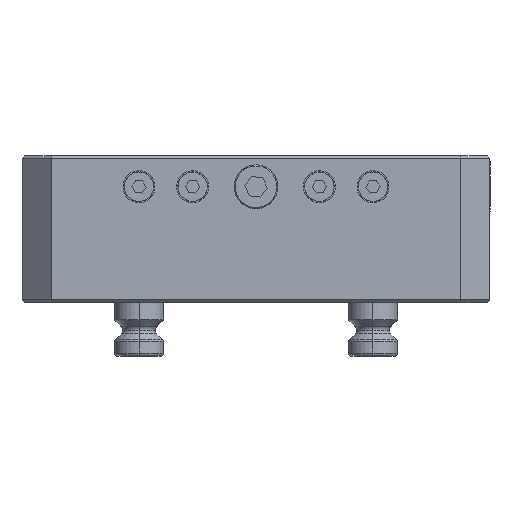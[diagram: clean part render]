
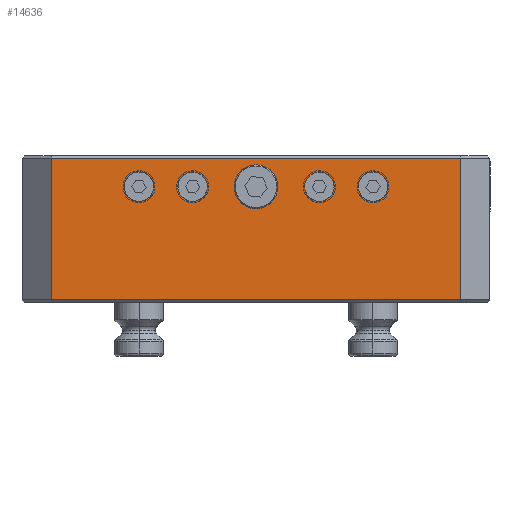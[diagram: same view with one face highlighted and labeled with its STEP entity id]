
A CAD part, top view. The second image highlights one B-rep face of the part: STEP entity #14636.
In plain terms, the highlighted planar face has unit normal (0, 0, 1).
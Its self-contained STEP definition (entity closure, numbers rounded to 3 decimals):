
#27 = EDGE_LOOP ( 'NONE', ( #8958, #22103 ) ) ;
#261 = EDGE_CURVE ( 'NONE', #5626, #20693, #9209, .T. ) ;
#551 = CARTESIAN_POINT ( 'NONE',  ( 20., 47.3, 78. ) ) ;
#627 = ORIENTED_EDGE ( 'NONE', *, *, #22127, .F. ) ;
#898 = VERTEX_POINT ( 'NONE', #22191 ) ;
#1158 = AXIS2_PLACEMENT_3D ( 'NONE', #12833, #2918, #3052 ) ;
#1362 = CARTESIAN_POINT ( 'NONE',  ( -20., 47.3, 78. ) ) ;
#1471 = CARTESIAN_POINT ( 'NONE',  ( 84., 1., 78. ) ) ;
#1622 = CARTESIAN_POINT ( 'NONE',  ( -9., 47.3, 78. ) ) ;
#1945 = VERTEX_POINT ( 'NONE', #24639 ) ;
#1988 = EDGE_CURVE ( 'NONE', #12956, #3048, #19965, .T. ) ;
#2331 = AXIS2_PLACEMENT_3D ( 'NONE', #22192, #21931, #10559 ) ;
#2334 = DIRECTION ( 'NONE',  ( 0., 0., 1. ) ) ;
#2514 = CARTESIAN_POINT ( 'NONE',  ( -84., 59., 78. ) ) ;
#2629 = VERTEX_POINT ( 'NONE', #551 ) ;
#2918 = DIRECTION ( 'NONE',  ( 0., 0., 1. ) ) ;
#2944 = ORIENTED_EDGE ( 'NONE', *, *, #17284, .F. ) ;
#3048 = VERTEX_POINT ( 'NONE', #1622 ) ;
#3052 = DIRECTION ( 'NONE',  ( 1., 0., 0. ) ) ;
#3341 = EDGE_CURVE ( 'NONE', #19946, #14505, #4541, .T. ) ;
#3673 = DIRECTION ( 'NONE',  ( 0., 0., 1. ) ) ;
#3901 = ORIENTED_EDGE ( 'NONE', *, *, #261, .F. ) ;
#4202 = CARTESIAN_POINT ( 'NONE',  ( 54., 47.3, 78. ) ) ;
#4333 = CIRCLE ( 'NONE', #7668, 6. ) ;
#4450 = CARTESIAN_POINT ( 'NONE',  ( 26., 47.3, 78. ) ) ;
#4541 = CIRCLE ( 'NONE', #6596, 6. ) ;
#4639 = EDGE_CURVE ( 'NONE', #2629, #22551, #18411, .T. ) ;
#4719 = DIRECTION ( 'NONE',  ( 1., 0., 0. ) ) ;
#4774 = DIRECTION ( 'NONE',  ( 1., 0., 0. ) ) ;
#5097 = DIRECTION ( 'NONE',  ( 0., 0., 1. ) ) ;
#5259 = CARTESIAN_POINT ( 'NONE',  ( 48., 47.3, 78. ) ) ;
#5597 = EDGE_CURVE ( 'NONE', #7050, #898, #6447, .T. ) ;
#5626 = VERTEX_POINT ( 'NONE', #1362 ) ;
#5719 = VERTEX_POINT ( 'NONE', #2514 ) ;
#5742 = DIRECTION ( 'NONE',  ( 1., 0., 0. ) ) ;
#6337 = EDGE_CURVE ( 'NONE', #22551, #2629, #4333, .T. ) ;
#6447 = CIRCLE ( 'NONE', #18758, 6. ) ;
#6596 = AXIS2_PLACEMENT_3D ( 'NONE', #10665, #5097, #22437 ) ;
#6597 = EDGE_LOOP ( 'NONE', ( #11009, #2944 ) ) ;
#6608 = CARTESIAN_POINT ( 'NONE',  ( -42., 47.3, 78. ) ) ;
#6713 = AXIS2_PLACEMENT_3D ( 'NONE', #24645, #11068, #16666 ) ;
#6985 = CIRCLE ( 'NONE', #7823, 6. ) ;
#7027 = VECTOR ( 'NONE', #20248, 1000. ) ;
#7050 = VERTEX_POINT ( 'NONE', #4202 ) ;
#7095 = EDGE_CURVE ( 'NONE', #15840, #1945, #12434, .T. ) ;
#7221 = VECTOR ( 'NONE', #20864, 1000. ) ;
#7607 = DIRECTION ( 'NONE',  ( -1., 0., 0. ) ) ;
#7668 = AXIS2_PLACEMENT_3D ( 'NONE', #4450, #24248, #24106 ) ;
#7823 = AXIS2_PLACEMENT_3D ( 'NONE', #13804, #17671, #12013 ) ;
#7974 = ORIENTED_EDGE ( 'NONE', *, *, #7095, .T. ) ;
#8958 = ORIENTED_EDGE ( 'NONE', *, *, #6337, .F. ) ;
#9209 = CIRCLE ( 'NONE', #19418, 6. ) ;
#9602 = AXIS2_PLACEMENT_3D ( 'NONE', #12635, #2334, #10485 ) ;
#9626 = CARTESIAN_POINT ( 'NONE',  ( 0., 47.3, 78. ) ) ;
#10261 = LINE ( 'NONE', #22284, #25037 ) ;
#10485 = DIRECTION ( 'NONE',  ( 1., 0., 0. ) ) ;
#10559 = DIRECTION ( 'NONE',  ( 1., 0., 0. ) ) ;
#10665 = CARTESIAN_POINT ( 'NONE',  ( -48., 47.3, 78. ) ) ;
#10667 = AXIS2_PLACEMENT_3D ( 'NONE', #17978, #25430, #23493 ) ;
#11009 = ORIENTED_EDGE ( 'NONE', *, *, #1988, .F. ) ;
#11068 = DIRECTION ( 'NONE',  ( 0., 0., -1. ) ) ;
#11661 = ORIENTED_EDGE ( 'NONE', *, *, #13957, .F. ) ;
#11684 = ORIENTED_EDGE ( 'NONE', *, *, #20372, .T. ) ;
#12013 = DIRECTION ( 'NONE',  ( 1., 0., 0. ) ) ;
#12218 = CARTESIAN_POINT ( 'NONE',  ( 9., 47.3, 78. ) ) ;
#12376 = CARTESIAN_POINT ( 'NONE',  ( -32., 47.3, 78. ) ) ;
#12434 = LINE ( 'NONE', #21918, #7027 ) ;
#12463 = VERTEX_POINT ( 'NONE', #14477 ) ;
#12635 = CARTESIAN_POINT ( 'NONE',  ( 48., 47.3, 78. ) ) ;
#12833 = CARTESIAN_POINT ( 'NONE',  ( -48., 47.3, 78. ) ) ;
#12947 = FACE_BOUND ( 'NONE', #6597, .T. ) ;
#12956 = VERTEX_POINT ( 'NONE', #12218 ) ;
#13067 = FACE_OUTER_BOUND ( 'NONE', #16732, .T. ) ;
#13335 = DIRECTION ( 'NONE',  ( 0., 0., 1. ) ) ;
#13581 = EDGE_LOOP ( 'NONE', ( #24985, #11661 ) ) ;
#13804 = CARTESIAN_POINT ( 'NONE',  ( -26., 47.3, 78. ) ) ;
#13957 = EDGE_CURVE ( 'NONE', #898, #7050, #23900, .T. ) ;
#14110 = VECTOR ( 'NONE', #7607, 1000. ) ;
#14248 = AXIS2_PLACEMENT_3D ( 'NONE', #9626, #3673, #5742 ) ;
#14477 = CARTESIAN_POINT ( 'NONE',  ( -84., 1., 78. ) ) ;
#14505 = VERTEX_POINT ( 'NONE', #19268 ) ;
#14636 = ADVANCED_FACE ( 'NONE', ( #12947, #18729, #22687, #20744, #15008, #13067 ), #22821, .F. ) ;
#14883 = ORIENTED_EDGE ( 'NONE', *, *, #23282, .F. ) ;
#15008 = FACE_BOUND ( 'NONE', #20097, .T. ) ;
#15130 = CIRCLE ( 'NONE', #1158, 6. ) ;
#15189 = EDGE_CURVE ( 'NONE', #1945, #5719, #25048, .T. ) ;
#15244 = LINE ( 'NONE', #17410, #7221 ) ;
#15782 = CARTESIAN_POINT ( 'NONE',  ( -84., 59., 78. ) ) ;
#15840 = VERTEX_POINT ( 'NONE', #1471 ) ;
#16389 = DIRECTION ( 'NONE',  ( 0., -1., 0. ) ) ;
#16565 = ORIENTED_EDGE ( 'NONE', *, *, #3341, .F. ) ;
#16666 = DIRECTION ( 'NONE',  ( -1., 0., 0. ) ) ;
#16732 = EDGE_LOOP ( 'NONE', ( #24793, #11684, #7974, #19767 ) ) ;
#17142 = CARTESIAN_POINT ( 'NONE',  ( 32., 47.3, 78. ) ) ;
#17284 = EDGE_CURVE ( 'NONE', #3048, #12956, #23265, .T. ) ;
#17410 = CARTESIAN_POINT ( 'NONE',  ( -96., 1., 78. ) ) ;
#17671 = DIRECTION ( 'NONE',  ( 0., 0., 1. ) ) ;
#17978 = CARTESIAN_POINT ( 'NONE',  ( 26., 47.3, 78. ) ) ;
#18411 = CIRCLE ( 'NONE', #10667, 6. ) ;
#18544 = EDGE_CURVE ( 'NONE', #5719, #12463, #10261, .T. ) ;
#18729 = FACE_BOUND ( 'NONE', #27, .T. ) ;
#18758 = AXIS2_PLACEMENT_3D ( 'NONE', #5259, #13335, #4774 ) ;
#19268 = CARTESIAN_POINT ( 'NONE',  ( -54., 47.3, 78. ) ) ;
#19418 = AXIS2_PLACEMENT_3D ( 'NONE', #24636, #22307, #4719 ) ;
#19767 = ORIENTED_EDGE ( 'NONE', *, *, #15189, .T. ) ;
#19946 = VERTEX_POINT ( 'NONE', #6608 ) ;
#19965 = CIRCLE ( 'NONE', #14248, 9. ) ;
#20097 = EDGE_LOOP ( 'NONE', ( #16565, #14883 ) ) ;
#20248 = DIRECTION ( 'NONE',  ( 0., 1., 0. ) ) ;
#20372 = EDGE_CURVE ( 'NONE', #12463, #15840, #15244, .T. ) ;
#20693 = VERTEX_POINT ( 'NONE', #12376 ) ;
#20744 = FACE_BOUND ( 'NONE', #13581, .T. ) ;
#20864 = DIRECTION ( 'NONE',  ( 1., 0., 0. ) ) ;
#21063 = EDGE_LOOP ( 'NONE', ( #3901, #627 ) ) ;
#21918 = CARTESIAN_POINT ( 'NONE',  ( 84., 60., 78. ) ) ;
#21931 = DIRECTION ( 'NONE',  ( 0., 0., 1. ) ) ;
#22103 = ORIENTED_EDGE ( 'NONE', *, *, #4639, .F. ) ;
#22127 = EDGE_CURVE ( 'NONE', #20693, #5626, #6985, .T. ) ;
#22191 = CARTESIAN_POINT ( 'NONE',  ( 42., 47.3, 78. ) ) ;
#22192 = CARTESIAN_POINT ( 'NONE',  ( 0., 47.3, 78. ) ) ;
#22284 = CARTESIAN_POINT ( 'NONE',  ( -84., 60., 78. ) ) ;
#22307 = DIRECTION ( 'NONE',  ( 0., 0., 1. ) ) ;
#22437 = DIRECTION ( 'NONE',  ( 1., 0., 0. ) ) ;
#22551 = VERTEX_POINT ( 'NONE', #17142 ) ;
#22687 = FACE_BOUND ( 'NONE', #21063, .T. ) ;
#22821 = PLANE ( 'NONE',  #6713 ) ;
#23265 = CIRCLE ( 'NONE', #2331, 9. ) ;
#23282 = EDGE_CURVE ( 'NONE', #14505, #19946, #15130, .T. ) ;
#23493 = DIRECTION ( 'NONE',  ( 1., 0., 0. ) ) ;
#23900 = CIRCLE ( 'NONE', #9602, 6. ) ;
#24106 = DIRECTION ( 'NONE',  ( 1., 0., 0. ) ) ;
#24248 = DIRECTION ( 'NONE',  ( 0., 0., 1. ) ) ;
#24636 = CARTESIAN_POINT ( 'NONE',  ( -26., 47.3, 78. ) ) ;
#24639 = CARTESIAN_POINT ( 'NONE',  ( 84., 59., 78. ) ) ;
#24645 = CARTESIAN_POINT ( 'NONE',  ( -96., 60., 78. ) ) ;
#24793 = ORIENTED_EDGE ( 'NONE', *, *, #18544, .T. ) ;
#24985 = ORIENTED_EDGE ( 'NONE', *, *, #5597, .F. ) ;
#25037 = VECTOR ( 'NONE', #16389, 1000. ) ;
#25048 = LINE ( 'NONE', #15782, #14110 ) ;
#25430 = DIRECTION ( 'NONE',  ( 0., 0., 1. ) ) ;
